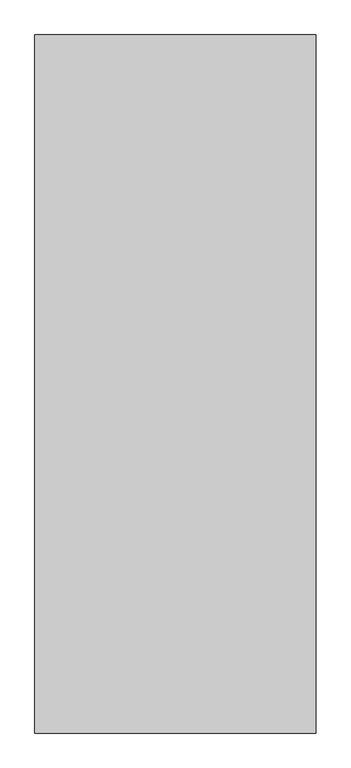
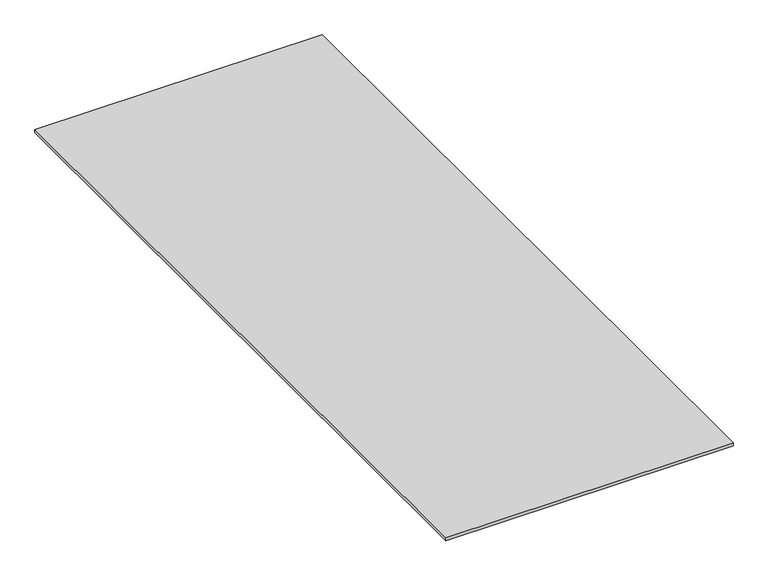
"""IFC4 building model written with IfcOpenShell, lengths in millimetres: proxy geometry, Фиброцементная плита LATONIT окрашенная : 10 мм."""

from ifc_helpers import new_model, si_unit, frame, origin, place, context, project, spatial, polyline, outline, extrude, source, transform, mapped, element, save


def generic_models_359a6e18(model_context):
    return source(origin(), model_context, "Body", "SweptSolid", [
        extrude(outline(polyline([(911.5, 2260.0), (911.5, 0.0), (0.0, 0.0), (0.0, 2260.0), (911.5, 2260.0)])), frame((0.0, 0.0, 240.0), z_axis=(0.0, 0.0, 1.0), x_axis=(1.0, 0.0, 0.0)), (0.0, 0.0, 1.0), 10.0),
    ])


if __name__ == "__main__":
    model = new_model("IFC4")
    model_context = context("Model", 3, world=origin())
    ifc_project = project(units=[si_unit("LENGTHUNIT", "METRE", prefix="MILLI")], contexts=[model_context])
    site = spatial("IfcSite", under=ifc_project)
    building = spatial("IfcBuilding", under=site)
    placement = place(None, origin())
    generic_models_shape = generic_models_359a6e18(model_context)
    element("IfcBuildingElementProxy", 1, Name="Фиброцементная плита LATONIT окрашенная : 10 мм", ObjectType="Фиброцементная плита LATONIT окрашенная : 10 мм", at=placement, inside=building, context=model_context, shape_type="MappedRepresentation", body=[
        mapped(generic_models_shape, transform((0.0, 0.0, 0.0), x_axis=(1.0, 0.0, 0.0), y_axis=(0.0, 1.0, 0.0), z_axis=(0.0, 0.0, 1.0))),
    ])
    save(model, "model.ifc")
